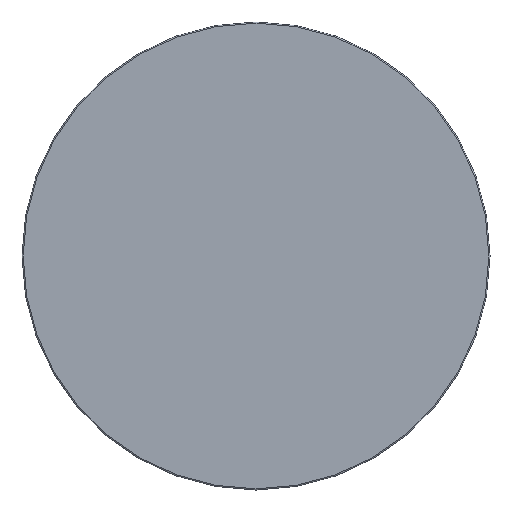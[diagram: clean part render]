
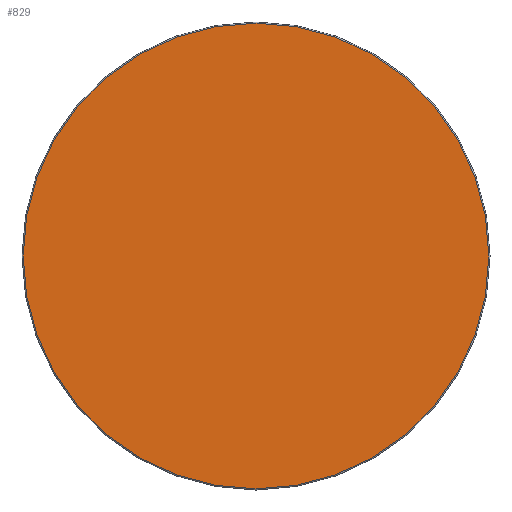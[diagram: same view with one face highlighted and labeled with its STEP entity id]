
A CAD part, left-side view. The second image highlights one B-rep face of the part: STEP entity #829.
In plain terms, the highlighted planar face has unit normal (-1, 0, 0).
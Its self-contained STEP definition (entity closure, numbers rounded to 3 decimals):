
#806=CARTESIAN_POINT('',(0.0,199.0,0.0));
#807=VERTEX_POINT('',#806);
#808=CARTESIAN_POINT('',(0.0,0.0,0.0));
#809=DIRECTION('',(1.0,0.0,0.0));
#810=DIRECTION('',(0.0,-1.0,0.0));
#811=AXIS2_PLACEMENT_3D('',#808,#809,#810);
#812=CIRCLE('',#811,199.0);
#813=EDGE_CURVE('',#807,#807,#812,.T.);
#821=CARTESIAN_POINT('',(0.0,149.847,0.));
#822=DIRECTION('',(-1.0,0.0,0.0));
#823=DIRECTION('',(0.0,0.0,1.0));
#824=AXIS2_PLACEMENT_3D('',#821,#822,#823);
#825=PLANE('',#824);
#826=ORIENTED_EDGE('',*,*,#813,.F.);
#827=EDGE_LOOP('',(#826));
#828=FACE_OUTER_BOUND('',#827,.T.);
#829=ADVANCED_FACE('',(#828),#825,.T.);
